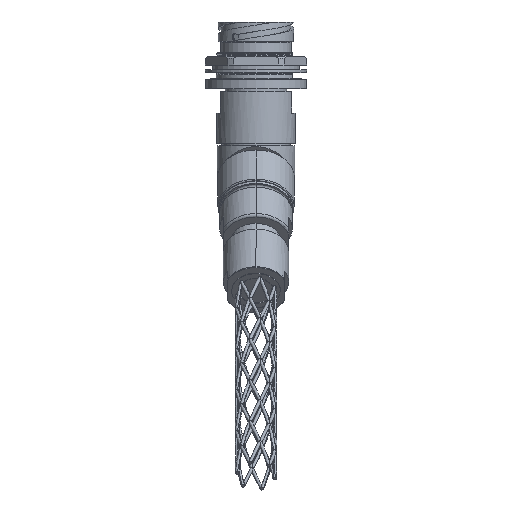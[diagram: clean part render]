
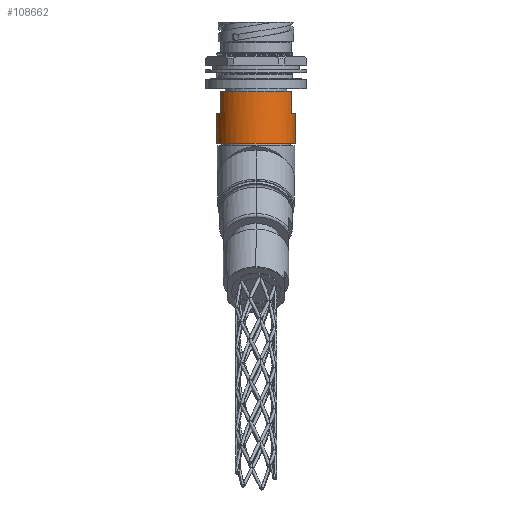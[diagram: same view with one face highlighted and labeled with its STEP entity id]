
A CAD part, front view. The second image highlights one B-rep face of the part: STEP entity #108662.
In plain terms, the highlighted cylindrical face has radius 17.272 mm (diameter 34.544 mm), a partial arc.
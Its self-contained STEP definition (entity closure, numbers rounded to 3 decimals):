
#2280 = CARTESIAN_POINT ( 'NONE',  ( 17.272, 0., -39.853 ) ) ;
#3625 = EDGE_CURVE ( 'NONE', #8811, #117974, #112384, .T. ) ;
#5932 = ORIENTED_EDGE ( 'NONE', *, *, #38568, .F. ) ;
#8811 = VERTEX_POINT ( 'NONE', #56597 ) ;
#13197 = CARTESIAN_POINT ( 'NONE',  ( 0., 0., -53.01 ) ) ;
#13487 = DIRECTION ( 'NONE',  ( 0., 0., -1. ) ) ;
#14150 = LINE ( 'NONE', #14744, #101744 ) ;
#14744 = CARTESIAN_POINT ( 'NONE',  ( 15.621, -7.369, -30.328 ) ) ;
#18862 = CARTESIAN_POINT ( 'NONE',  ( -17.272, 0., -53.01 ) ) ;
#22232 = CARTESIAN_POINT ( 'NONE',  ( -15.621, -7.369, -30.328 ) ) ;
#23065 = DIRECTION ( 'NONE',  ( 1., 0., 0. ) ) ;
#26971 = CARTESIAN_POINT ( 'NONE',  ( 17.272, 0., -53.01 ) ) ;
#27237 = EDGE_CURVE ( 'NONE', #96100, #117974, #44013, .T. ) ;
#27663 = CARTESIAN_POINT ( 'NONE',  ( 0., 0., -30.328 ) ) ;
#34366 = VERTEX_POINT ( 'NONE', #2280 ) ;
#38568 = EDGE_CURVE ( 'NONE', #8811, #54196, #14150, .T. ) ;
#38662 = DIRECTION ( 'NONE',  ( 1., 0., 0. ) ) ;
#38729 = VERTEX_POINT ( 'NONE', #84322 ) ;
#42838 = AXIS2_PLACEMENT_3D ( 'NONE', #27663, #91182, #74075 ) ;
#44013 = LINE ( 'NONE', #22232, #91203 ) ;
#45035 = ORIENTED_EDGE ( 'NONE', *, *, #76361, .T. ) ;
#46387 = CIRCLE ( 'NONE', #63910, 17.272 ) ;
#48034 = AXIS2_PLACEMENT_3D ( 'NONE', #106227, #98870, #52457 ) ;
#48899 = VERTEX_POINT ( 'NONE', #26971 ) ;
#49850 = DIRECTION ( 'NONE',  ( 0., 0., -1. ) ) ;
#52165 = CARTESIAN_POINT ( 'NONE',  ( -15.621, -7.369, -39.853 ) ) ;
#52457 = DIRECTION ( 'NONE',  ( 1., 0., 0. ) ) ;
#53953 = CYLINDRICAL_SURFACE ( 'NONE', #42838, 17.272 ) ;
#54196 = VERTEX_POINT ( 'NONE', #56390 ) ;
#56390 = CARTESIAN_POINT ( 'NONE',  ( 15.621, -7.369, -39.853 ) ) ;
#56597 = CARTESIAN_POINT ( 'NONE',  ( 15.621, -7.369, -30.328 ) ) ;
#59353 = CIRCLE ( 'NONE', #67110, 17.272 ) ;
#60485 = DIRECTION ( 'NONE',  ( 0., 0., -1. ) ) ;
#60944 = VERTEX_POINT ( 'NONE', #18862 ) ;
#61326 = ORIENTED_EDGE ( 'NONE', *, *, #67595, .F. ) ;
#63910 = AXIS2_PLACEMENT_3D ( 'NONE', #13197, #49850, #77935 ) ;
#64019 = CARTESIAN_POINT ( 'NONE',  ( -15.621, -7.369, -30.328 ) ) ;
#64119 = AXIS2_PLACEMENT_3D ( 'NONE', #117714, #106742, #23065 ) ;
#64316 = FACE_OUTER_BOUND ( 'NONE', #76115, .T. ) ;
#67110 = AXIS2_PLACEMENT_3D ( 'NONE', #114978, #86274, #38662 ) ;
#67595 = EDGE_CURVE ( 'NONE', #54196, #34366, #59353, .T. ) ;
#68449 = CARTESIAN_POINT ( 'NONE',  ( -17.272, 0., -30.328 ) ) ;
#74075 = DIRECTION ( 'NONE',  ( 1., 0., 0. ) ) ;
#75368 = ORIENTED_EDGE ( 'NONE', *, *, #91284, .F. ) ;
#76115 = EDGE_LOOP ( 'NONE', ( #113633, #45035, #98173, #75368, #61326, #5932, #84103, #94294 ) ) ;
#76361 = EDGE_CURVE ( 'NONE', #38729, #60944, #114272, .T. ) ;
#77935 = DIRECTION ( 'NONE',  ( 1., 0., 0. ) ) ;
#79658 = EDGE_CURVE ( 'NONE', #48899, #60944, #46387, .T. ) ;
#84103 = ORIENTED_EDGE ( 'NONE', *, *, #3625, .T. ) ;
#84322 = CARTESIAN_POINT ( 'NONE',  ( -17.272, 0., -39.853 ) ) ;
#86274 = DIRECTION ( 'NONE',  ( 0., 0., 1. ) ) ;
#88649 = DIRECTION ( 'NONE',  ( 0., 0., -1. ) ) ;
#91182 = DIRECTION ( 'NONE',  ( 0., 0., -1. ) ) ;
#91203 = VECTOR ( 'NONE', #116284, 1000. ) ;
#91284 = EDGE_CURVE ( 'NONE', #34366, #48899, #116097, .T. ) ;
#93334 = CIRCLE ( 'NONE', #64119, 17.272 ) ;
#94294 = ORIENTED_EDGE ( 'NONE', *, *, #27237, .F. ) ;
#96100 = VERTEX_POINT ( 'NONE', #52165 ) ;
#98173 = ORIENTED_EDGE ( 'NONE', *, *, #79658, .F. ) ;
#98870 = DIRECTION ( 'NONE',  ( 0., 0., -1. ) ) ;
#99392 = VECTOR ( 'NONE', #13487, 1000. ) ;
#101744 = VECTOR ( 'NONE', #88649, 1000. ) ;
#106102 = VECTOR ( 'NONE', #60485, 1000. ) ;
#106227 = CARTESIAN_POINT ( 'NONE',  ( 0., 0., -30.328 ) ) ;
#106742 = DIRECTION ( 'NONE',  ( 0., 0., 1. ) ) ;
#108662 = ADVANCED_FACE ( 'NONE', ( #64316 ), #53953, .T. ) ;
#112384 = CIRCLE ( 'NONE', #48034, 17.272 ) ;
#113633 = ORIENTED_EDGE ( 'NONE', *, *, #114164, .F. ) ;
#114164 = EDGE_CURVE ( 'NONE', #38729, #96100, #93334, .T. ) ;
#114272 = LINE ( 'NONE', #68449, #106102 ) ;
#114978 = CARTESIAN_POINT ( 'NONE',  ( 0., 0., -39.853 ) ) ;
#115501 = CARTESIAN_POINT ( 'NONE',  ( 17.272, 0., -30.328 ) ) ;
#116097 = LINE ( 'NONE', #115501, #99392 ) ;
#116284 = DIRECTION ( 'NONE',  ( 0., 0., 1. ) ) ;
#117714 = CARTESIAN_POINT ( 'NONE',  ( 0., 0., -39.853 ) ) ;
#117974 = VERTEX_POINT ( 'NONE', #64019 ) ;
